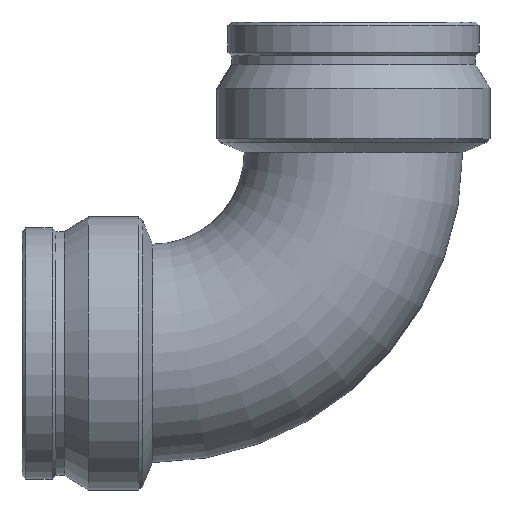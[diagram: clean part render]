
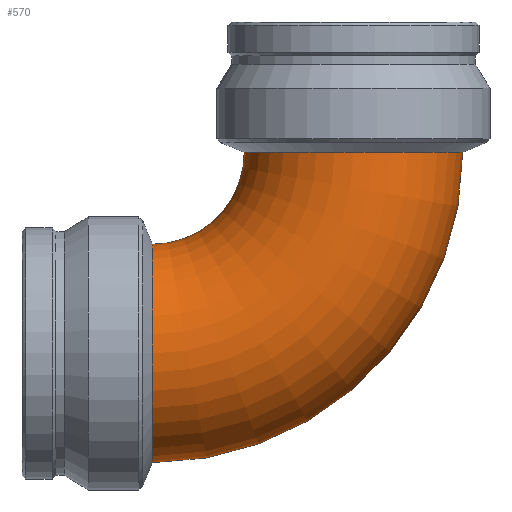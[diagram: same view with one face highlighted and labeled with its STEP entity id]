
A CAD part, front view. The second image highlights one B-rep face of the part: STEP entity #570.
In plain terms, the highlighted toroidal (fillet/blend) face has major radius 192.9 mm and minor radius 104.8 mm.
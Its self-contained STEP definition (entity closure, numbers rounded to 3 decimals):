
#130=FACE_OUTER_BOUND('',#172,.T.);
#172=EDGE_LOOP('',(#409,#410,#411,#412,#413,#414));
#228=CIRCLE('',#641,104.8);
#229=CIRCLE('',#642,104.8);
#230=CIRCLE('',#643,88.1);
#231=CIRCLE('',#644,104.8);
#232=CIRCLE('',#645,104.8);
#275=VERTEX_POINT('',#948);
#276=VERTEX_POINT('',#949);
#277=VERTEX_POINT('',#952);
#278=VERTEX_POINT('',#954);
#326=EDGE_CURVE('',#275,#276,#228,.T.);
#327=EDGE_CURVE('',#276,#275,#229,.T.);
#328=EDGE_CURVE('',#276,#277,#230,.T.);
#329=EDGE_CURVE('',#278,#277,#231,.T.);
#330=EDGE_CURVE('',#277,#278,#232,.T.);
#409=ORIENTED_EDGE('',*,*,#326,.F.);
#410=ORIENTED_EDGE('',*,*,#327,.F.);
#411=ORIENTED_EDGE('',*,*,#328,.T.);
#412=ORIENTED_EDGE('',*,*,#329,.F.);
#413=ORIENTED_EDGE('',*,*,#330,.F.);
#414=ORIENTED_EDGE('',*,*,#328,.F.);
#568=TOROIDAL_SURFACE('',#640,192.9,104.8);
#570=ADVANCED_FACE('',(#130),#568,.T.);
#640=AXIS2_PLACEMENT_3D('',#947,#738,#739);
#641=AXIS2_PLACEMENT_3D('',#950,#740,#741);
#642=AXIS2_PLACEMENT_3D('',#951,#742,#743);
#643=AXIS2_PLACEMENT_3D('',#953,#744,#745);
#644=AXIS2_PLACEMENT_3D('',#955,#746,#747);
#645=AXIS2_PLACEMENT_3D('',#956,#748,#749);
#738=DIRECTION('center_axis',(0.,-1.,0.));
#739=DIRECTION('ref_axis',(0.,0.,-1.));
#740=DIRECTION('center_axis',(0.,0.,
1.));
#741=DIRECTION('ref_axis',(0.,-1.,0.));
#742=DIRECTION('center_axis',(0.,0.,
1.));
#743=DIRECTION('ref_axis',(0.,-1.,0.));
#744=DIRECTION('center_axis',(0.,1.,0.));
#745=DIRECTION('ref_axis',(0.,0.,-1.));
#746=DIRECTION('center_axis',(-1.,0.,0.));
#747=DIRECTION('ref_axis',(0.,-1.,0.));
#748=DIRECTION('center_axis',(-1.,0.,0.));
#749=DIRECTION('ref_axis',(0.,-1.,0.));
#947=CARTESIAN_POINT('Origin',(-192.9,0.,192.9));
#948=CARTESIAN_POINT('',(0.,104.8,192.9));
#949=CARTESIAN_POINT('',(-104.8,0.,192.9));
#950=CARTESIAN_POINT('Origin',(0.,0.,
192.9));
#951=CARTESIAN_POINT('Origin',(0.,0.,
192.9));
#952=CARTESIAN_POINT('',(-192.9,0.,104.8));
#953=CARTESIAN_POINT('Origin',(-192.9,0.,192.9));
#954=CARTESIAN_POINT('',(-192.9,104.8,0.));
#955=CARTESIAN_POINT('Origin',(-192.9,0.,0.));
#956=CARTESIAN_POINT('Origin',(-192.9,0.,0.));
